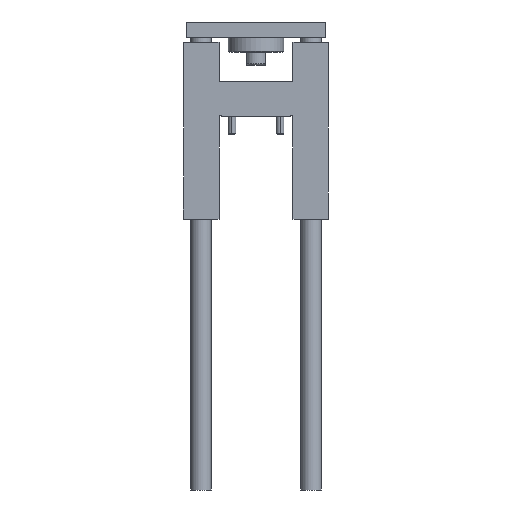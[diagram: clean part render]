
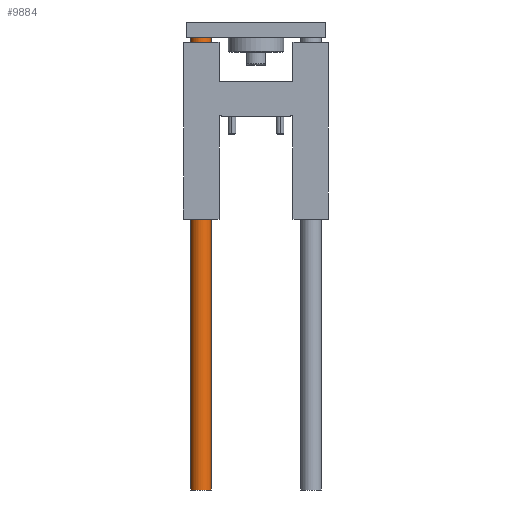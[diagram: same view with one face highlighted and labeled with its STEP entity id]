
A CAD part, front view. The second image highlights one B-rep face of the part: STEP entity #9884.
In plain terms, the highlighted cylindrical face has radius 8 mm (diameter 16 mm), a partial arc.
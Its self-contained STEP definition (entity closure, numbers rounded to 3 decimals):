
#143 = DIRECTION ( 'NONE',  ( 0., 0., -1. ) ) ;
#959 = AXIS2_PLACEMENT_3D ( 'NONE', #3770, #2051, #5975 ) ;
#1076 = ORIENTED_EDGE ( 'NONE', *, *, #6517, .F. ) ;
#1334 = DIRECTION ( 'NONE',  ( 0., 0., -1. ) ) ;
#2051 = DIRECTION ( 'NONE',  ( 0., 0., 1. ) ) ;
#2132 = DIRECTION ( 'NONE',  ( 0., 0., -1. ) ) ;
#2311 = CARTESIAN_POINT ( 'NONE',  ( -51.5, 0., -295. ) ) ;
#2352 = ORIENTED_EDGE ( 'NONE', *, *, #10130, .T. ) ;
#2390 = VERTEX_POINT ( 'NONE', #6414 ) ;
#2872 = CARTESIAN_POINT ( 'NONE',  ( -51.5, 0., -295. ) ) ;
#2969 = AXIS2_PLACEMENT_3D ( 'NONE', #3206, #143, #7172 ) ;
#3025 = LINE ( 'NONE', #3798, #7856 ) ;
#3206 = CARTESIAN_POINT ( 'NONE',  ( -43.5, 0., -295. ) ) ;
#3629 = DIRECTION ( 'NONE',  ( 0., 0., 1. ) ) ;
#3770 = CARTESIAN_POINT ( 'NONE',  ( -43.5, 0., 63. ) ) ;
#3787 = AXIS2_PLACEMENT_3D ( 'NONE', #5992, #3629, #9209 ) ;
#3798 = CARTESIAN_POINT ( 'NONE',  ( -35.5, 0., -295. ) ) ;
#3881 = ORIENTED_EDGE ( 'NONE', *, *, #8790, .T. ) ;
#4328 = CARTESIAN_POINT ( 'NONE',  ( -35.5, 0., -295. ) ) ;
#4461 = VERTEX_POINT ( 'NONE', #2872 ) ;
#4755 = FACE_OUTER_BOUND ( 'NONE', #8236, .T. ) ;
#4794 = VECTOR ( 'NONE', #1334, 1000. ) ;
#4799 = ORIENTED_EDGE ( 'NONE', *, *, #5711, .F. ) ;
#5711 = EDGE_CURVE ( 'NONE', #7299, #8311, #3025, .T. ) ;
#5975 = DIRECTION ( 'NONE',  ( 1., 0., 0. ) ) ;
#5992 = CARTESIAN_POINT ( 'NONE',  ( -43.5, 0., -295. ) ) ;
#6414 = CARTESIAN_POINT ( 'NONE',  ( -51.5, 0., 63. ) ) ;
#6517 = EDGE_CURVE ( 'NONE', #2390, #7299, #6601, .T. ) ;
#6584 = CYLINDRICAL_SURFACE ( 'NONE', #2969, 8. ) ;
#6601 = CIRCLE ( 'NONE', #959, 8. ) ;
#7172 = DIRECTION ( 'NONE',  ( 1., 0., 0. ) ) ;
#7299 = VERTEX_POINT ( 'NONE', #9205 ) ;
#7856 = VECTOR ( 'NONE', #2132, 1000. ) ;
#8236 = EDGE_LOOP ( 'NONE', ( #1076, #2352, #3881, #4799 ) ) ;
#8311 = VERTEX_POINT ( 'NONE', #4328 ) ;
#8614 = LINE ( 'NONE', #2311, #4794 ) ;
#8790 = EDGE_CURVE ( 'NONE', #4461, #8311, #9772, .T. ) ;
#9205 = CARTESIAN_POINT ( 'NONE',  ( -35.5, 0., 63. ) ) ;
#9209 = DIRECTION ( 'NONE',  ( 1., 0., 0. ) ) ;
#9772 = CIRCLE ( 'NONE', #3787, 8. ) ;
#9884 = ADVANCED_FACE ( 'NONE', ( #4755 ), #6584, .T. ) ;
#10130 = EDGE_CURVE ( 'NONE', #2390, #4461, #8614, .T. ) ;
